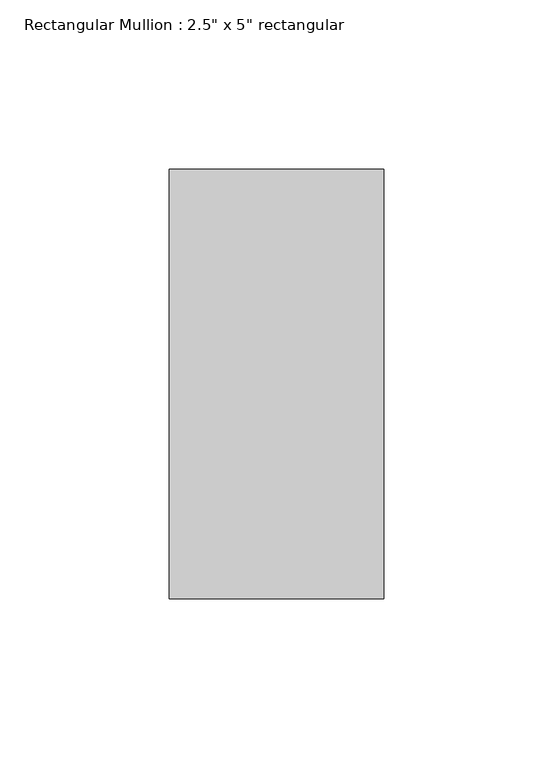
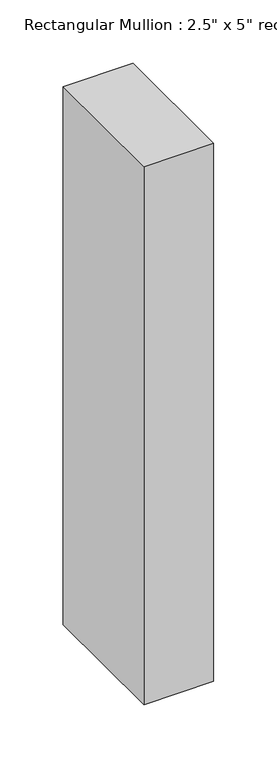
"""IFC4 building model written with IfcOpenShell, lengths in millimetres: member geometry."""

from ifc_helpers import new_model, si_unit, frame, origin, place, context, project, spatial, polyline, outline, extrude, source, transform, mapped, element, save


def member_bfe1ccfe(model_context):
    return source(origin(), model_context, "Body", "SweptSolid", [
        extrude(outline(polyline([(31.75, 63.5), (31.75, -63.5), (-31.75, -63.5), (-31.75, 63.5), (31.75, 63.5)])), frame((0.0, 0.0, -517.5859468), z_axis=(0.0, 0.0, 1.0), x_axis=(1.0, 0.0, 0.0)), (0.0, 0.0, 1.0), 517.5859468),
    ])


if __name__ == "__main__":
    model = new_model("IFC4")
    model_context = context("Model", 3, world=origin())
    ifc_project = project(units=[si_unit("LENGTHUNIT", "METRE", prefix="MILLI")], contexts=[model_context])
    site = spatial("IfcSite", under=ifc_project)
    building = spatial("IfcBuilding", under=site)
    placement = place(None, origin())
    member_shape = member_bfe1ccfe(model_context)
    element("IfcMember", 1, ObjectType="Rectangular Mullion : 2.5\" x 5\" rectangular", at=placement, inside=building, context=model_context, shape_type="MappedRepresentation", body=[
        mapped(member_shape, transform((0.0, 0.0, 0.0), x_axis=(1.0, 0.0, 0.0), y_axis=(0.0, 1.0, 0.0), z_axis=(0.0, 0.0, 1.0))),
    ])
    save(model, "model.ifc")
